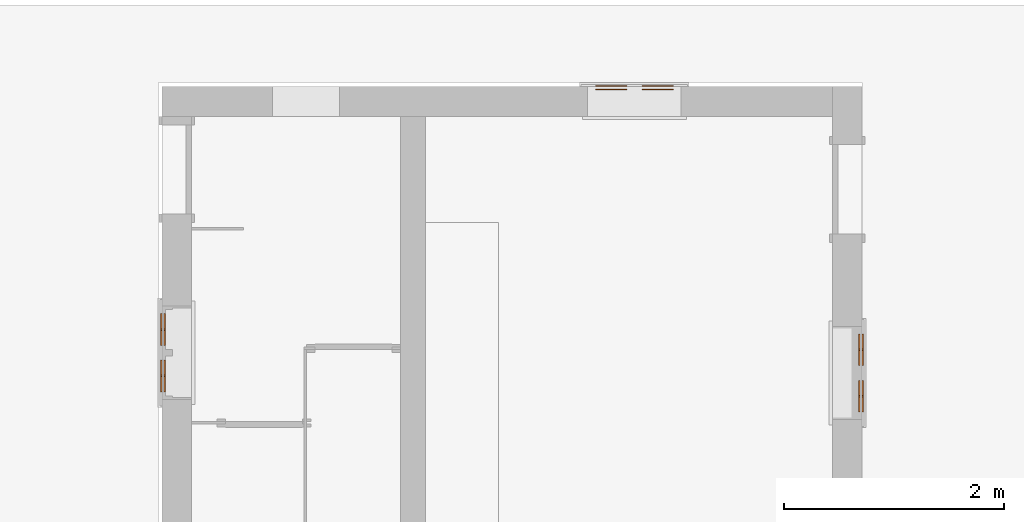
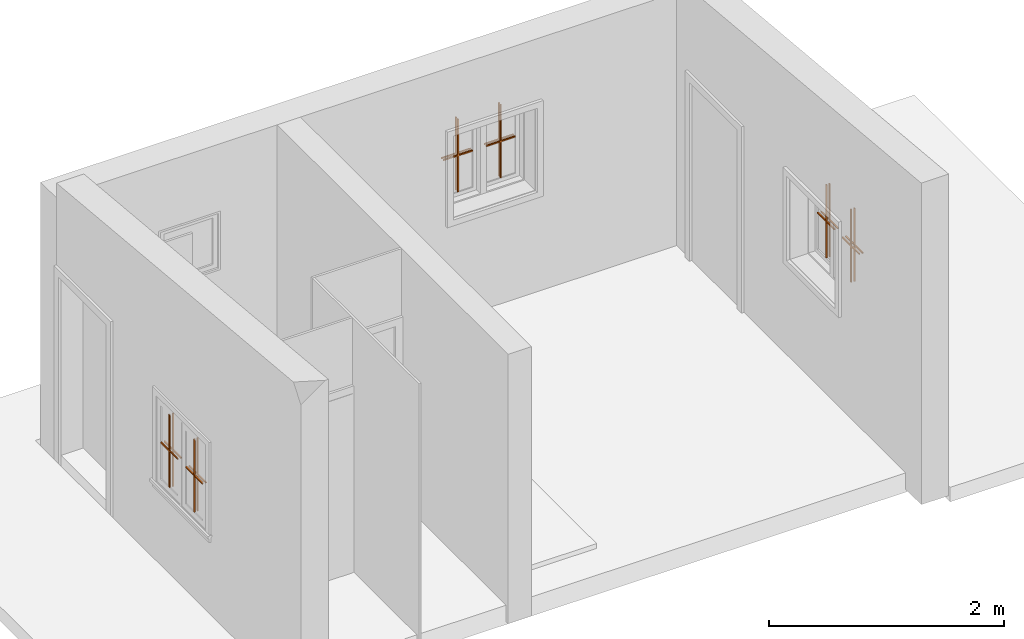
# One storey, part 16 of 16: 6 proxies.
"""IFC2X3 building model written with IfcOpenShell, lengths in millimetres."""

from ifc_helpers import new_model, entity, si_unit, converted_unit, derived_unit, direction, frame, origin, place, context, subcontext, project, spatial, polyline, outline, extrude, source, transform, mapped, material, material_list, type_object, type_shapes, element, save


model = new_model("IFC2X3")

# Units and contexts
model_context = context("Model", 3, precision=0.01, world=origin(), true_north=direction((4.05803320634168e-15, -1.0)))
body_context = subcontext(model_context, "Body", "Model", "MODEL_VIEW")
ifc_project = project(units=[si_unit("LENGTHUNIT", "METRE", prefix="MILLI"), si_unit("AREAUNIT", "SQUARE_METRE"), si_unit("VOLUMEUNIT", "CUBIC_METRE"), converted_unit("PLANEANGLEUNIT", "DEGREE", entity("IfcRatioMeasure", 0.0174532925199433), si_unit("PLANEANGLEUNIT", "RADIAN"), dimensions=[0, 0, 0, 0, 0, 0, 0]), si_unit("MASSUNIT", "GRAM", prefix="KILO"), derived_unit("MASSDENSITYUNIT", [(si_unit("MASSUNIT", "GRAM", prefix="KILO"), 1), (si_unit("LENGTHUNIT", "METRE"), -3)]), si_unit("TIMEUNIT", "SECOND"), si_unit("FREQUENCYUNIT", "HERTZ"), si_unit("THERMODYNAMICTEMPERATUREUNIT", "DEGREE_CELSIUS"), derived_unit("THERMALTRANSMITTANCEUNIT", [(si_unit("MASSUNIT", "GRAM", prefix="KILO"), 1), (si_unit("THERMODYNAMICTEMPERATUREUNIT", "KELVIN"), -1), (si_unit("TIMEUNIT", "SECOND"), -3)]), derived_unit("VOLUMETRICFLOWRATEUNIT", [(si_unit("LENGTHUNIT", "METRE"), 3), (si_unit("TIMEUNIT", "SECOND"), -1)]), si_unit("ELECTRICCURRENTUNIT", "AMPERE"), si_unit("ELECTRICVOLTAGEUNIT", "VOLT"), si_unit("POWERUNIT", "WATT"), si_unit("FORCEUNIT", "NEWTON", prefix="KILO"), si_unit("ILLUMINANCEUNIT", "LUX"), si_unit("LUMINOUSFLUXUNIT", "LUMEN"), si_unit("LUMINOUSINTENSITYUNIT", "CANDELA"), derived_unit("USERDEFINED", [(si_unit("MASSUNIT", "GRAM", prefix="KILO"), -1), (si_unit("LENGTHUNIT", "METRE"), -2), (si_unit("TIMEUNIT", "SECOND"), 3), (si_unit("LUMINOUSFLUXUNIT", "LUMEN"), 1)]), derived_unit("LINEARVELOCITYUNIT", [(si_unit("LENGTHUNIT", "METRE"), 1), (si_unit("TIMEUNIT", "SECOND"), -1)]), si_unit("PRESSUREUNIT", "PASCAL"), derived_unit("USERDEFINED", [(si_unit("LENGTHUNIT", "METRE"), -2), (si_unit("MASSUNIT", "GRAM", prefix="KILO"), 1), (si_unit("TIMEUNIT", "SECOND"), -2)])], contexts=[model_context])

# Site, building, storey
site_placement = place(None, frame((927466.849349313, 583801.882853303, 0.0), z_axis=(0.0, 0.0, 1.0), x_axis=(-1.0, 0.0, 0.0)))
site = spatial("IfcSite", under=ifc_project, at=site_placement, Name="Surface", CompositionType="ELEMENT")
building_placement = place(site_placement, origin())
building = spatial("IfcBuilding", under=site, at=building_placement, CompositionType="ELEMENT")
storey_placement = place(building_placement, frame((0.0, 0.0, 42810.0)))
storey = spatial("IfcBuildingStorey", under=building, at=storey_placement, Name="Hardstand", CompositionType="ELEMENT", Elevation=42810.0)

# Proxies
ifc_material_1 = material(Name="Clad - White")
ifc_material_2 = material(Name="Wood - Stained")
ifc_material_list_1 = material_list([ifc_material_1, ifc_material_2])
ifc_material_list_2 = material_list([ifc_material_1, ifc_material_2])
building_element_proxy_type_1 = type_object("IfcBuildingElementProxyType", Name="M_Muntin Pattern_2x2", PredefinedType="NOTDEFINED", material=ifc_material_list_2)
shared_shape_1 = source(origin(), body_context, "Body", "SweptSolid", [
    extrude(outline(polyline([(6.35000000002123, -6.3500000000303), (380.149999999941, -6.3500000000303), (380.149999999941, 6.34999999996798), (6.35000000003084, 6.34999999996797), (6.35000000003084, 144.237500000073), (-6.34999999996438, 144.237500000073), (-6.34999999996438, 6.34999999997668), (-380.150000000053, 6.34999999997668), (-380.150000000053, -6.35000000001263), (-6.34999999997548, -6.35000000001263), (-6.34999999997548, -144.237499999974), (6.35000000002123, -144.237499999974), (6.35000000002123, -6.3500000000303)])), frame((0.0, 9.5249999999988, 380.149999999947), z_axis=(0.0, 1.0, 0.0), x_axis=(0.0, 0.0, 1.0)), (0.0, 0.0, 1.0), 12.699999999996),
    extrude(outline(polyline([(6.35000000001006, -6.35000000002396), (380.150000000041, -6.35000000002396), (380.150000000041, 6.34999999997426), (6.35000000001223, 6.34999999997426), (6.35000000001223, 144.237500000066), (-6.34999999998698, 144.237500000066), (-6.34999999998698, 6.34999999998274), (-380.150000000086, 6.34999999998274), (-380.150000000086, -6.35000000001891), (-6.34999999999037, -6.35000000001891), (-6.34999999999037, -144.237499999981), (6.35000000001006, -144.237499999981), (6.35000000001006, -6.35000000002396)])), frame((0.0, -22.2250000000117, 380.150000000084), z_axis=(0.0, 1.0, 0.0), x_axis=(0.0, 0.0, 1.0)), (0.0, 0.0, 1.0), 12.6999999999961),
])
type_shapes(building_element_proxy_type_1, [shared_shape_1])
proxy_1_placement = place(storey_placement, frame((-145790.070849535, 9620.49412671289, 969.849999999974), z_axis=(0.0, 0.0, 1.0), x_axis=(0.0, -1.0, 0.0)))
element("IfcBuildingElementProxy", 1, at=proxy_1_placement, inside=storey, type_object=building_element_proxy_type_1, material=ifc_material_list_1, Name="M_Muntin Pattern_2x2:M_Muntin Pattern_2x2", ObjectType="M_Muntin Pattern_2x2", context=body_context, shape_type="MappedRepresentation", body=[
    mapped(shared_shape_1, transform((0.0, 0.0, 0.0), scale=1.0)),
])
ifc_material_list_3 = material_list([ifc_material_1, ifc_material_2])
proxy_2_placement = place(storey_placement, frame((-152141.276407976, 9383.26035700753, 1246.2199192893), z_axis=(0.0, 0.0, 1.0), x_axis=(0.0, 1.0, 0.0)))
element("IfcBuildingElementProxy", 2, at=proxy_2_placement, inside=storey, type_object=building_element_proxy_type_1, material=ifc_material_list_3, Name="M_Muntin Pattern_2x2:M_Muntin Pattern_2x2", ObjectType="M_Muntin Pattern_2x2", context=body_context, shape_type="MappedRepresentation", body=[
    mapped(shared_shape_1, transform((0.0, 0.0, 0.0), scale=1.0)),
])
ifc_material_list_4 = material_list([ifc_material_1, ifc_material_2])
proxy_3_placement = place(storey_placement, frame((-149868.891966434, 6998.54082707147, 1283.53641480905), z_axis=(0.0, 0.0, 1.0), x_axis=(-1.0, 0.0, 0.0)))
element("IfcBuildingElementProxy", 3, at=proxy_3_placement, inside=storey, type_object=building_element_proxy_type_1, material=ifc_material_list_4, Name="M_Muntin Pattern_2x2:M_Muntin Pattern_2x2", ObjectType="M_Muntin Pattern_2x2", context=body_context, shape_type="MappedRepresentation", body=[
    mapped(shared_shape_1, transform((0.0, 0.0, 0.0), scale=1.0)),
])
ifc_material_list_5 = material_list([ifc_material_1, ifc_material_2])
ifc_material_list_6 = material_list([ifc_material_1, ifc_material_2])
building_element_proxy_type_2 = type_object("IfcBuildingElementProxyType", Name="M_Muntin Pattern_2x2", PredefinedType="NOTDEFINED", material=ifc_material_list_6)
shared_shape_2 = source(origin(), body_context, "Body", "SweptSolid", [
    extrude(outline(polyline([(6.35000000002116, -6.3500000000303), (380.149999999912, -6.3500000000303), (380.149999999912, 6.34999999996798), (6.35000000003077, 6.34999999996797), (6.35000000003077, 144.237500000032), (-6.34999999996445, 144.237500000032), (-6.34999999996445, 6.34999999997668), (-380.150000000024, 6.34999999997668), (-380.150000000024, -6.35000000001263), (-6.34999999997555, -6.35000000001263), (-6.34999999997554, -144.237499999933), (6.35000000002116, -144.237499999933), (6.35000000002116, -6.3500000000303)])), frame((0.0, -22.2249999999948, 380.149999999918), z_axis=(0.0, 1.0, 0.0), x_axis=(0.0, 0.0, 1.0)), (0.0, 0.0, 1.0), 12.699999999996),
    extrude(outline(polyline([(6.35000000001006, -6.35000000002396), (380.150000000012, -6.35000000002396), (380.150000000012, 6.34999999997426), (6.35000000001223, 6.34999999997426), (6.35000000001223, 144.237500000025), (-6.34999999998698, 144.237500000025), (-6.34999999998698, 6.34999999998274), (-380.150000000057, 6.34999999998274), (-380.150000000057, -6.35000000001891), (-6.34999999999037, -6.35000000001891), (-6.34999999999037, -144.23749999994), (6.35000000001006, -144.23749999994), (6.35000000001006, -6.35000000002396)])), frame((0.0, 9.52500000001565, 380.150000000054), z_axis=(0.0, 1.0, 0.0), x_axis=(0.0, 0.0, 1.0)), (0.0, 0.0, 1.0), 12.6999999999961),
])
type_shapes(building_element_proxy_type_2, [shared_shape_2])
proxy_4_placement = place(storey_placement, frame((-145790.070849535, 9198.66912671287, 969.850000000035), z_axis=(0.0, 0.0, 1.0), x_axis=(0.0, 1.0, 0.0)))
element("IfcBuildingElementProxy", 4, at=proxy_4_placement, inside=storey, type_object=building_element_proxy_type_2, material=ifc_material_list_5, Name="M_Muntin Pattern_2x2:M_Muntin Pattern_2x2", ObjectType="M_Muntin Pattern_2x2", context=body_context, shape_type="MappedRepresentation", body=[
    mapped(shared_shape_2, transform((0.0, 0.0, 0.0), scale=1.0)),
])
ifc_material_list_7 = material_list([ifc_material_1, ifc_material_2])
proxy_5_placement = place(storey_placement, frame((-152141.276407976, 9805.08535700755, 1246.21991928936), z_axis=(0.0, 0.0, 1.0), x_axis=(0.0, -1.0, 0.0)))
element("IfcBuildingElementProxy", 5, at=proxy_5_placement, inside=storey, type_object=building_element_proxy_type_2, material=ifc_material_list_7, Name="M_Muntin Pattern_2x2:M_Muntin Pattern_2x2", ObjectType="M_Muntin Pattern_2x2", context=body_context, shape_type="MappedRepresentation", body=[
    mapped(shared_shape_2, transform((0.0, 0.0, 0.0), scale=1.0)),
])
ifc_material_list_8 = material_list([ifc_material_1, ifc_material_2])
proxy_6_placement = place(storey_placement, frame((-150290.716966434, 6998.54082707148, 1283.53641480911)))
element("IfcBuildingElementProxy", 6, at=proxy_6_placement, inside=storey, type_object=building_element_proxy_type_2, material=ifc_material_list_8, Name="M_Muntin Pattern_2x2:M_Muntin Pattern_2x2", ObjectType="M_Muntin Pattern_2x2", context=body_context, shape_type="MappedRepresentation", body=[
    mapped(shared_shape_2, transform((0.0, 0.0, 0.0), scale=1.0)),
])

save(model, "model.ifc")
